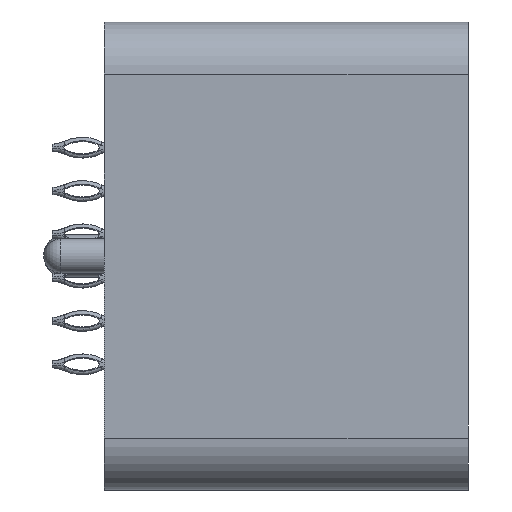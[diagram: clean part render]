
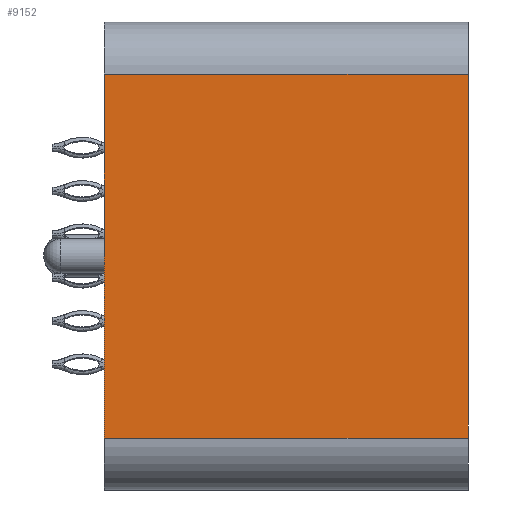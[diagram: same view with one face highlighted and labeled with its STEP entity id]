
A CAD part, left-side view. The second image highlights one B-rep face of the part: STEP entity #9152.
In plain terms, the highlighted planar face has unit normal (-1, 0, 0).
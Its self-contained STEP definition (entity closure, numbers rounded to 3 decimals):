
#9152=ADVANCED_FACE('',(#16168),#14051,.T.);
#14051=PLANE('',#89733);
#16168=FACE_OUTER_BOUND('',#21032,.T.);
#21032=EDGE_LOOP('',(#26286,#26287,#26288,#26289));
#26286=ORIENTED_EDGE('',*,*,#61196,.T.);
#26287=ORIENTED_EDGE('',*,*,#61197,.T.);
#26288=ORIENTED_EDGE('',*,*,#61194,.T.);
#26289=ORIENTED_EDGE('',*,*,#61045,.F.);
#52644=VERTEX_POINT('',#122178);
#52645=VERTEX_POINT('',#122180);
#52755=VERTEX_POINT('',#122481);
#52756=VERTEX_POINT('',#122485);
#61045=EDGE_CURVE('',#52644,#52645,#74318,.T.);
#61194=EDGE_CURVE('',#52755,#52645,#74443,.T.);
#61196=EDGE_CURVE('',#52644,#52756,#74444,.T.);
#61197=EDGE_CURVE('',#52756,#52755,#74445,.T.);
#74318=LINE('',#122179,#81866);
#74443=LINE('',#122480,#81991);
#74444=LINE('',#122484,#81992);
#74445=LINE('',#122486,#81993);
#81866=VECTOR('',#97938,1.);
#81991=VECTOR('',#98179,1.);
#81992=VECTOR('',#98184,1.);
#81993=VECTOR('',#98185,1.);
#89733=AXIS2_PLACEMENT_3D('',#122487,#98186,#98187);
#97938=DIRECTION('',(0.,0.,1.));
#98179=DIRECTION('',(0.,1.,0.));
#98184=DIRECTION('',(0.,-1.,0.));
#98185=DIRECTION('',(0.,0.,1.));
#98186=DIRECTION('',(-1.,0.,0.));
#98187=DIRECTION('',(0.,0.,1.));
#122178=CARTESIAN_POINT('',(-38.45,0.,-10.5));
#122179=CARTESIAN_POINT('',(-38.45,0.,0.));
#122180=CARTESIAN_POINT('',(-38.45,0.,10.5));
#122480=CARTESIAN_POINT('',(-38.45,-14.567,10.5));
#122481=CARTESIAN_POINT('',(-38.45,-21.,10.5));
#122484=CARTESIAN_POINT('',(-38.45,-14.567,-10.5));
#122485=CARTESIAN_POINT('',(-38.45,-21.,-10.5));
#122486=CARTESIAN_POINT('',(-38.45,-21.,-13.5));
#122487=CARTESIAN_POINT('',(-38.45,-9.,-13.5));
